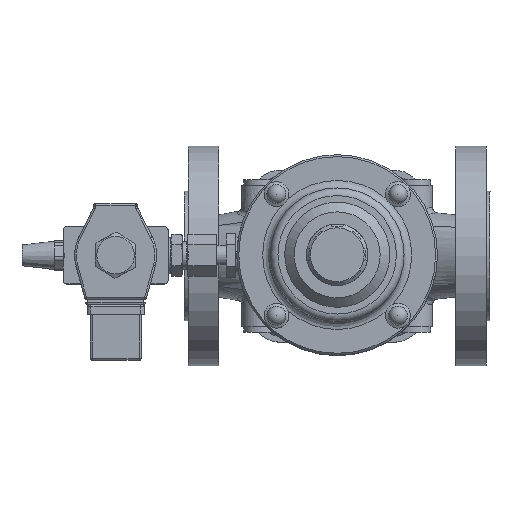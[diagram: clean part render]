
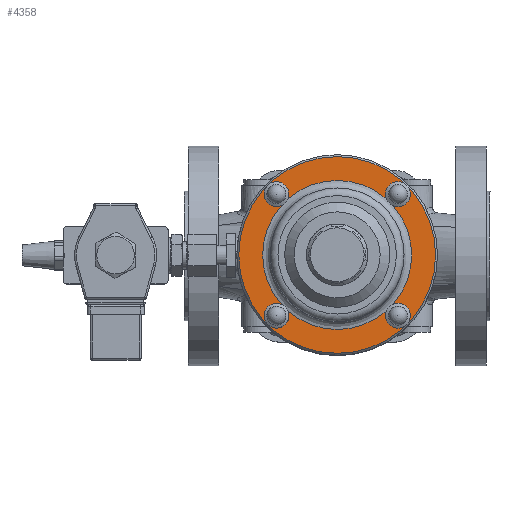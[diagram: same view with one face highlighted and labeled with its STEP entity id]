
A CAD part, top view. The second image highlights one B-rep face of the part: STEP entity #4358.
In plain terms, the highlighted planar face has unit normal (0, 0, 1).
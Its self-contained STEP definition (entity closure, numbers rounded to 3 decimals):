
#3372=CARTESIAN_POINT('',(-82.454,-1100.575,308.));
#3373=VERTEX_POINT('',#3372);
#3381=CARTESIAN_POINT('',(-85.109,-1100.568,308.));
#3382=VERTEX_POINT('',#3381);
#3383=CARTESIAN_POINT('',(-85.109,-1100.568,308.));
#3384=DIRECTION('',(1.,-0.003,0.0));
#3385=VECTOR('',#3384,2.655);
#3386=LINE('',#3383,#3385);
#3387=EDGE_CURVE('',#3382,#3373,#3386,.T.);
#4106=CARTESIAN_POINT('',(-85.108,-1100.048,308.));
#4107=VERTEX_POINT('',#4106);
#4115=CARTESIAN_POINT('',(-82.453,-1100.055,308.));
#4116=VERTEX_POINT('',#4115);
#4117=CARTESIAN_POINT('',(-82.453,-1100.055,308.));
#4118=DIRECTION('',(-1.,0.003,0.0));
#4119=VECTOR('',#4118,2.655);
#4120=LINE('',#4117,#4119);
#4121=EDGE_CURVE('',#4116,#4107,#4120,.T.);
#4145=CARTESIAN_POINT('',(-79.214,-1100.324,308.));
#4146=DIRECTION('',(0.,0.,1.));
#4147=DIRECTION('',(-0.003,-1.,0.));
#4148=AXIS2_PLACEMENT_3D('',#4145,#4146,#4147);
#4149=CIRCLE('',#4148,3.25);
#4150=EDGE_CURVE('',#3373,#4116,#4149,.T.);
#4162=CARTESIAN_POINT('',(-79.214,-1100.324,308.));
#4163=DIRECTION('',(0.,0.,-1.0));
#4164=DIRECTION('',(-0.003,-1.,0.));
#4165=AXIS2_PLACEMENT_3D('',#4162,#4163,#4164);
#4166=CIRCLE('',#4165,5.9);
#4167=EDGE_CURVE('',#4107,#3382,#4166,.T.);
#4173=CARTESIAN_POINT('',(-111.034,-1132.143,308.));
#4174=DIRECTION('',(0.0,0.0,-1.0));
#4175=DIRECTION('',(0.,-1.0,0.0));
#4176=AXIS2_PLACEMENT_3D('',#4173,#4174,#4175);
#4177=PLANE('',#4176);
#4178=CARTESIAN_POINT('',(-111.034,-1080.643,308.));
#4179=VERTEX_POINT('',#4178);
#4180=CARTESIAN_POINT('',(-111.034,-1132.143,308.));
#4181=DIRECTION('',(0.,0.,-1.0));
#4182=DIRECTION('',(0.,-1.0,0.));
#4183=AXIS2_PLACEMENT_3D('',#4180,#4181,#4182);
#4184=CIRCLE('',#4183,51.5);
#4185=EDGE_CURVE('',#4179,#4179,#4184,.T.);
#4186=ORIENTED_EDGE('',*,*,#4185,.F.);
#4187=EDGE_LOOP('',(#4186));
#4188=FACE_OUTER_BOUND('',#4187,.T.);
#4189=CARTESIAN_POINT('',(-139.877,-1099.946,308.));
#4190=VERTEX_POINT('',#4189);
#4191=CARTESIAN_POINT('',(-142.854,-1100.324,308.));
#4192=DIRECTION('',(0.,0.,1.));
#4193=DIRECTION('',(-0.992,-0.126,0.));
#4194=AXIS2_PLACEMENT_3D('',#4191,#4192,#4193);
#4195=CIRCLE('',#4194,3.0);
#4196=EDGE_CURVE('',#4190,#4190,#4195,.T.);
#4197=ORIENTED_EDGE('',*,*,#4196,.F.);
#4198=EDGE_LOOP('',(#4197));
#4199=FACE_BOUND('',#4198,.T.);
#4200=CARTESIAN_POINT('',(-143.231,-1160.987,308.));
#4201=VERTEX_POINT('',#4200);
#4202=CARTESIAN_POINT('',(-142.854,-1163.963,308.));
#4203=DIRECTION('',(0.,0.,1.));
#4204=DIRECTION('',(0.126,-0.992,0.));
#4205=AXIS2_PLACEMENT_3D('',#4202,#4203,#4204);
#4206=CIRCLE('',#4205,3.);
#4207=EDGE_CURVE('',#4201,#4201,#4206,.T.);
#4208=ORIENTED_EDGE('',*,*,#4207,.F.);
#4209=EDGE_LOOP('',(#4208));
#4210=FACE_BOUND('',#4209,.T.);
#4211=CARTESIAN_POINT('',(-82.19,-1164.341,308.));
#4212=VERTEX_POINT('',#4211);
#4213=CARTESIAN_POINT('',(-79.214,-1163.963,308.));
#4214=DIRECTION('',(0.,0.,1.));
#4215=DIRECTION('',(0.992,0.126,0.));
#4216=AXIS2_PLACEMENT_3D('',#4213,#4214,#4215);
#4217=CIRCLE('',#4216,3.0);
#4218=EDGE_CURVE('',#4212,#4212,#4217,.T.);
#4219=ORIENTED_EDGE('',*,*,#4218,.F.);
#4220=EDGE_LOOP('',(#4219));
#4221=FACE_BOUND('',#4220,.T.);
#4222=CARTESIAN_POINT('',(-78.837,-1103.3,308.));
#4223=VERTEX_POINT('',#4222);
#4224=CARTESIAN_POINT('',(-79.214,-1100.324,308.));
#4225=DIRECTION('',(0.,0.,1.));
#4226=DIRECTION('',(-0.126,0.992,0.));
#4227=AXIS2_PLACEMENT_3D('',#4224,#4225,#4226);
#4228=CIRCLE('',#4227,3.);
#4229=EDGE_CURVE('',#4223,#4223,#4228,.T.);
#4230=ORIENTED_EDGE('',*,*,#4229,.F.);
#4231=EDGE_LOOP('',(#4230));
#4232=FACE_BOUND('',#4231,.T.);
#4233=CARTESIAN_POINT('',(-111.034,-1093.143,308.));
#4234=VERTEX_POINT('',#4233);
#4235=CARTESIAN_POINT('',(-111.034,-1132.143,308.));
#4236=DIRECTION('',(0.,0.,1.0));
#4237=DIRECTION('',(0.,-1.0,0.));
#4238=AXIS2_PLACEMENT_3D('',#4235,#4236,#4237);
#4239=CIRCLE('',#4238,39.0);
#4240=EDGE_CURVE('',#4234,#4234,#4239,.T.);
#4241=ORIENTED_EDGE('',*,*,#4240,.F.);
#4242=EDGE_LOOP('',(#4241));
#4243=FACE_BOUND('',#4242,.T.);
#4244=CARTESIAN_POINT('',(-143.122,-1103.562,308.));
#4245=VERTEX_POINT('',#4244);
#4246=CARTESIAN_POINT('',(-143.129,-1106.217,308.));
#4247=VERTEX_POINT('',#4246);
#4248=CARTESIAN_POINT('',(-143.122,-1103.562,308.));
#4249=DIRECTION('',(-0.003,-1.,0.0));
#4250=VECTOR('',#4249,2.655);
#4251=LINE('',#4248,#4250);
#4252=EDGE_CURVE('',#4245,#4247,#4251,.T.);
#4253=ORIENTED_EDGE('',*,*,#4252,.T.);
#4254=CARTESIAN_POINT('',(-142.609,-1106.218,308.));
#4255=VERTEX_POINT('',#4254);
#4256=CARTESIAN_POINT('',(-142.854,-1100.324,308.));
#4257=DIRECTION('',(0.,0.,-1.0));
#4258=DIRECTION('',(1.,-0.003,0.));
#4259=AXIS2_PLACEMENT_3D('',#4256,#4257,#4258);
#4260=CIRCLE('',#4259,5.9);
#4261=EDGE_CURVE('',#4247,#4255,#4260,.T.);
#4262=ORIENTED_EDGE('',*,*,#4261,.T.);
#4263=CARTESIAN_POINT('',(-142.602,-1103.564,308.));
#4264=VERTEX_POINT('',#4263);
#4265=CARTESIAN_POINT('',(-142.609,-1106.218,308.));
#4266=DIRECTION('',(0.003,1.,0.0));
#4267=VECTOR('',#4266,2.655);
#4268=LINE('',#4265,#4267);
#4269=EDGE_CURVE('',#4255,#4264,#4268,.T.);
#4270=ORIENTED_EDGE('',*,*,#4269,.T.);
#4271=CARTESIAN_POINT('',(-142.854,-1100.324,308.));
#4272=DIRECTION('',(0.,0.,1.));
#4273=DIRECTION('',(1.,-0.003,0.));
#4274=AXIS2_PLACEMENT_3D('',#4271,#4272,#4273);
#4275=CIRCLE('',#4274,3.25);
#4276=EDGE_CURVE('',#4264,#4245,#4275,.T.);
#4277=ORIENTED_EDGE('',*,*,#4276,.T.);
#4278=EDGE_LOOP('',(#4253,#4262,#4270,#4277));
#4279=FACE_BOUND('',#4278,.T.);
#4280=CARTESIAN_POINT('',(-139.615,-1164.232,308.));
#4281=VERTEX_POINT('',#4280);
#4282=CARTESIAN_POINT('',(-136.96,-1164.239,308.));
#4283=VERTEX_POINT('',#4282);
#4284=CARTESIAN_POINT('',(-139.615,-1164.232,308.));
#4285=DIRECTION('',(1.,-0.003,0.0));
#4286=VECTOR('',#4285,2.655);
#4287=LINE('',#4284,#4286);
#4288=EDGE_CURVE('',#4281,#4283,#4287,.T.);
#4289=ORIENTED_EDGE('',*,*,#4288,.T.);
#4290=CARTESIAN_POINT('',(-136.959,-1163.719,308.));
#4291=VERTEX_POINT('',#4290);
#4292=CARTESIAN_POINT('',(-142.854,-1163.963,308.));
#4293=DIRECTION('',(0.,0.,-1.0));
#4294=DIRECTION('',(0.003,1.,0.));
#4295=AXIS2_PLACEMENT_3D('',#4292,#4293,#4294);
#4296=CIRCLE('',#4295,5.9);
#4297=EDGE_CURVE('',#4283,#4291,#4296,.T.);
#4298=ORIENTED_EDGE('',*,*,#4297,.T.);
#4299=CARTESIAN_POINT('',(-139.613,-1163.712,308.));
#4300=VERTEX_POINT('',#4299);
#4301=CARTESIAN_POINT('',(-136.959,-1163.719,308.));
#4302=DIRECTION('',(-1.,0.003,0.0));
#4303=VECTOR('',#4302,2.655);
#4304=LINE('',#4301,#4303);
#4305=EDGE_CURVE('',#4291,#4300,#4304,.T.);
#4306=ORIENTED_EDGE('',*,*,#4305,.T.);
#4307=CARTESIAN_POINT('',(-142.854,-1163.963,308.));
#4308=DIRECTION('',(0.,0.,1.));
#4309=DIRECTION('',(0.003,1.,0.));
#4310=AXIS2_PLACEMENT_3D('',#4307,#4308,#4309);
#4311=CIRCLE('',#4310,3.25);
#4312=EDGE_CURVE('',#4300,#4281,#4311,.T.);
#4313=ORIENTED_EDGE('',*,*,#4312,.T.);
#4314=EDGE_LOOP('',(#4289,#4298,#4306,#4313));
#4315=FACE_BOUND('',#4314,.T.);
#4316=CARTESIAN_POINT('',(-78.945,-1160.724,308.));
#4317=VERTEX_POINT('',#4316);
#4318=CARTESIAN_POINT('',(-78.938,-1158.07,308.));
#4319=VERTEX_POINT('',#4318);
#4320=CARTESIAN_POINT('',(-78.945,-1160.724,308.));
#4321=DIRECTION('',(0.003,1.,0.));
#4322=VECTOR('',#4321,2.655);
#4323=LINE('',#4320,#4322);
#4324=EDGE_CURVE('',#4317,#4319,#4323,.T.);
#4325=ORIENTED_EDGE('',*,*,#4324,.T.);
#4326=CARTESIAN_POINT('',(-79.458,-1158.068,308.));
#4327=VERTEX_POINT('',#4326);
#4328=CARTESIAN_POINT('',(-79.214,-1163.963,308.));
#4329=DIRECTION('',(0.,0.,-1.0));
#4330=DIRECTION('',(-1.,0.003,0.));
#4331=AXIS2_PLACEMENT_3D('',#4328,#4329,#4330);
#4332=CIRCLE('',#4331,5.9);
#4333=EDGE_CURVE('',#4319,#4327,#4332,.T.);
#4334=ORIENTED_EDGE('',*,*,#4333,.T.);
#4335=CARTESIAN_POINT('',(-79.465,-1160.723,308.));
#4336=VERTEX_POINT('',#4335);
#4337=CARTESIAN_POINT('',(-79.458,-1158.068,308.));
#4338=DIRECTION('',(-0.003,-1.,0.));
#4339=VECTOR('',#4338,2.655);
#4340=LINE('',#4337,#4339);
#4341=EDGE_CURVE('',#4327,#4336,#4340,.T.);
#4342=ORIENTED_EDGE('',*,*,#4341,.T.);
#4343=CARTESIAN_POINT('',(-79.214,-1163.963,308.));
#4344=DIRECTION('',(0.,0.,1.));
#4345=DIRECTION('',(-1.,0.003,0.));
#4346=AXIS2_PLACEMENT_3D('',#4343,#4344,#4345);
#4347=CIRCLE('',#4346,3.25);
#4348=EDGE_CURVE('',#4336,#4317,#4347,.T.);
#4349=ORIENTED_EDGE('',*,*,#4348,.T.);
#4350=EDGE_LOOP('',(#4325,#4334,#4342,#4349));
#4351=FACE_BOUND('',#4350,.T.);
#4352=ORIENTED_EDGE('',*,*,#4121,.T.);
#4353=ORIENTED_EDGE('',*,*,#4167,.T.);
#4354=ORIENTED_EDGE('',*,*,#3387,.T.);
#4355=ORIENTED_EDGE('',*,*,#4150,.T.);
#4356=EDGE_LOOP('',(#4352,#4353,#4354,#4355));
#4357=FACE_BOUND('',#4356,.T.);
#4358=ADVANCED_FACE('',(#4188,#4199,#4210,#4221,#4232,#4243,#4279,#4315,#4351,#4357),#4177,.F.);
